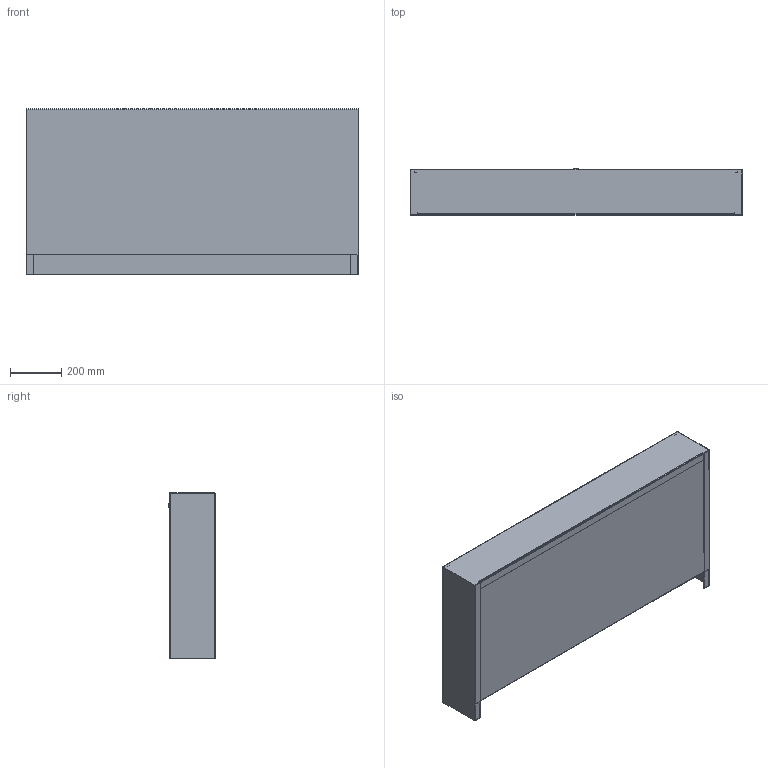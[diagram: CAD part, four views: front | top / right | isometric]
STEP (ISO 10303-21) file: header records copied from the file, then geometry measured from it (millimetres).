
FILE_DESCRIPTION(('TFLEX Exchange Step'),'2;1');
FILE_NAME('Manifold cabinet VTc.541.U.07 Valtec.stp', '2023-10-11T14:32:20+03:00',('denis'),('Unknown organisation'),'TFLEX Exchange 2023.0','T-FLEX CAD','Unknown authorisation');
FILE_SCHEMA( ('AUTOMOTIVE_DESIGN { 1 0 10303 214 1 1 1 1 }') );
Length unit declared in the file: millimetre
Products named in the file (1): Nodes
Bounding box: 1300 x 182.5 x 650 mm (x, y, z)
Volume: 2097527.8 mm3; surface area: 4396513.5 mm2
Topology: 5 solids, 6 shells, 315 faces, 842 edges, 529 vertices
Faces by surface type: plane 205, cylinder 79, cone 23, bspline 6, torus 2
Full cylindrical faces by diameter (mm): 10 x1, 12 x1, 16 x1, 20 x2
Entity records: 11497 total; most frequent: CARTESIAN_POINT 3648, ORIENTED_EDGE 1684, DIRECTION 1550, EDGE_CURVE 842, VECTOR 574, LINE 574, VERTEX_POINT 529, AXIS2_PLACEMENT_3D 488
